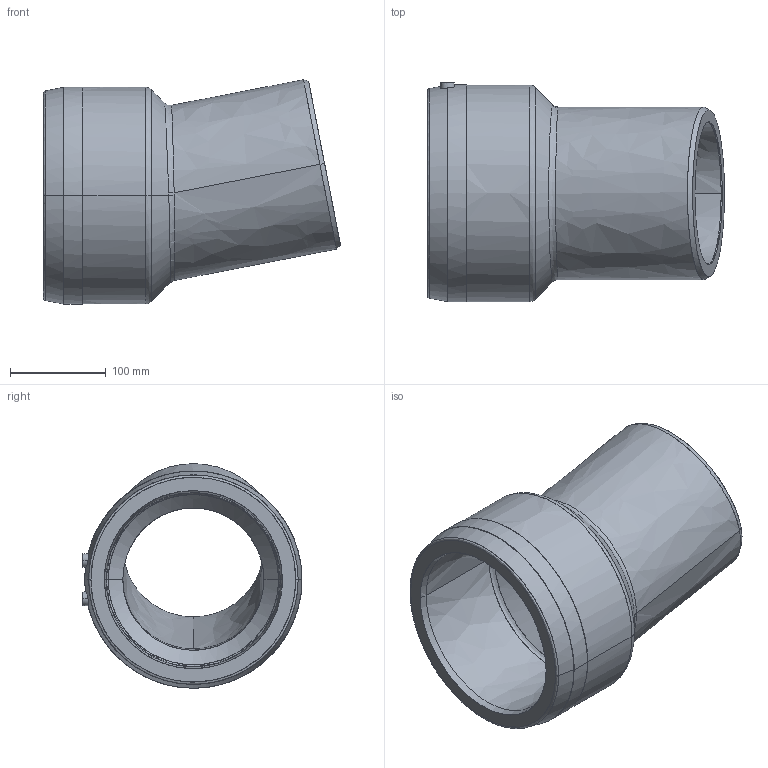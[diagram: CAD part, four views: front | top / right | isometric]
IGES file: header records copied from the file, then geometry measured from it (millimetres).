
Start section:  PTC IGES file: ws11_d180.igs
Global section: file name: ws11_d180.igs; native system: Pro/ENGINEER by Parametric Technology Corporation; preprocessor: 2011490; author: mtunjic; organization: Unknown; date: 20130807.141338; units: millimetre
Bounding box: 309.88 x 229.45 x 234.25 mm (x, y, z)
Surface area: 361539.3 mm2 (no closed solid volume)
Topology: 0 solids, 0 shells, 173 faces, 880 edges, 878 vertices
Faces by surface type: bspline 173
